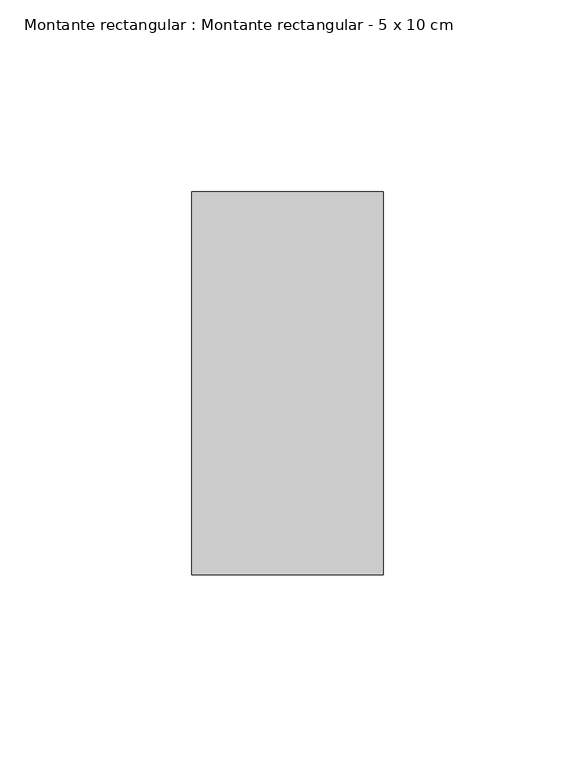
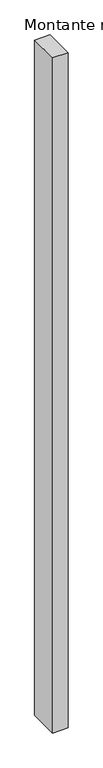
"""IFC4 building model written with IfcOpenShell, lengths in millimetres: member geometry, Montante rectangular : Montante rectangular - 5 x 10 cm."""

from ifc_helpers import new_model, si_unit, frame, origin, place, context, project, spatial, polyline, outline, extrude, source, transform, mapped, element, save


def montante_rectangular_montante_rectangular_5_x_10_cm_950c9d74(model_context):
    return source(origin(), model_context, "Body", "SweptSolid", [
        extrude(outline(polyline([(0.0, 50.0), (0.0, -50.0), (-50.0, -50.0), (-50.0, 50.0), (0.0, 50.0)])), frame((0.0, 0.0, -2295.0), z_axis=(0.0, 0.0, 1.0), x_axis=(1.0, 0.0, 0.0)), (0.0, 0.0, 1.0), 2295.0),
    ])


if __name__ == "__main__":
    model = new_model("IFC4")
    model_context = context("Model", 3, world=origin())
    ifc_project = project(units=[si_unit("LENGTHUNIT", "METRE", prefix="MILLI")], contexts=[model_context])
    site = spatial("IfcSite", under=ifc_project)
    building = spatial("IfcBuilding", under=site)
    placement = place(None, origin())
    montante_rectangular_montante_rectangular_5_x_10_cm_shape = montante_rectangular_montante_rectangular_5_x_10_cm_950c9d74(model_context)
    element("IfcMember", 1, ObjectType="Montante rectangular : Montante rectangular - 5 x 10 cm", at=placement, inside=building, context=model_context, shape_type="MappedRepresentation", body=[
        mapped(montante_rectangular_montante_rectangular_5_x_10_cm_shape, transform((0.0, 0.0, 0.0), x_axis=(1.0, 0.0, 0.0), y_axis=(0.0, 1.0, 0.0), z_axis=(0.0, 0.0, 1.0))),
    ])
    save(model, "model.ifc")
